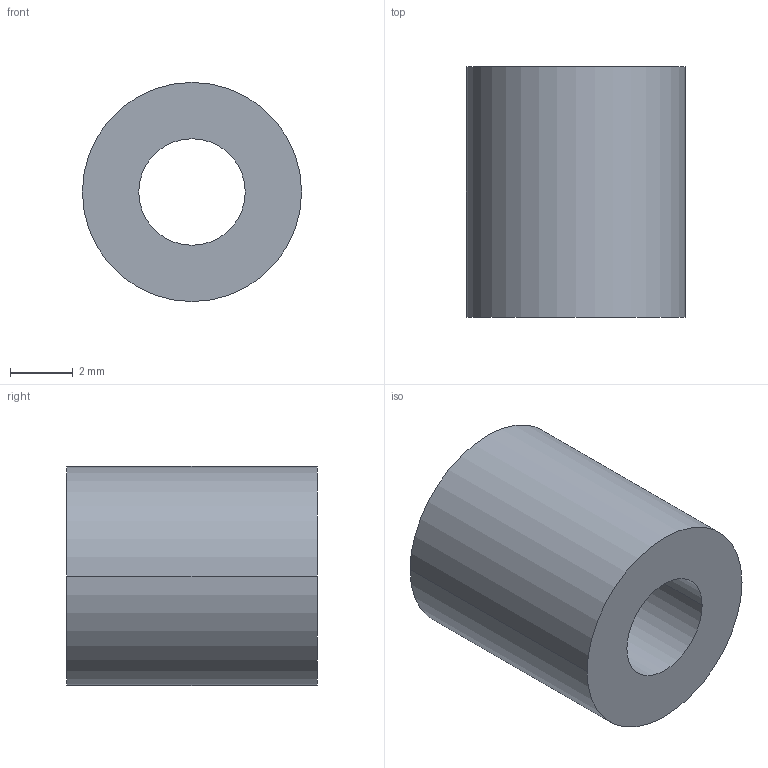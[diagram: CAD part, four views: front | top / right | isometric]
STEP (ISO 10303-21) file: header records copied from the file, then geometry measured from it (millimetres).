
FILE_DESCRIPTION (( 'STEP AP203' ), '1' );
FILE_NAME ('30800.WPP7B3.4.step', '2019-01-23T22:18:56', ( '' ), ( '' ), 'SwSTEP 2.0', 'SolidWorks 2017', '' );
FILE_SCHEMA (( 'CONFIG_CONTROL_DESIGN' ));
Length unit declared in the file: millimetre
Products named in the file (1): 30800.WPP7B3.4
Bounding box: 7 x 8 x 7 mm (x, y, z)
Volume: 232.6 mm3; surface area: 316.1 mm2
Topology: 1 solids, 1 shells, 8 faces, 16 edges, 10 vertices
Faces by surface type: cylinder 4, torus 2, plane 2
Entity records: 297 total; most frequent: DIRECTION 46, CARTESIAN_POINT 35, ORIENTED_EDGE 32, AXIS2_PLACEMENT_3D 21, EDGE_CURVE 16, CIRCLE 12, VERTEX_POINT 10, EDGE_LOOP 10
